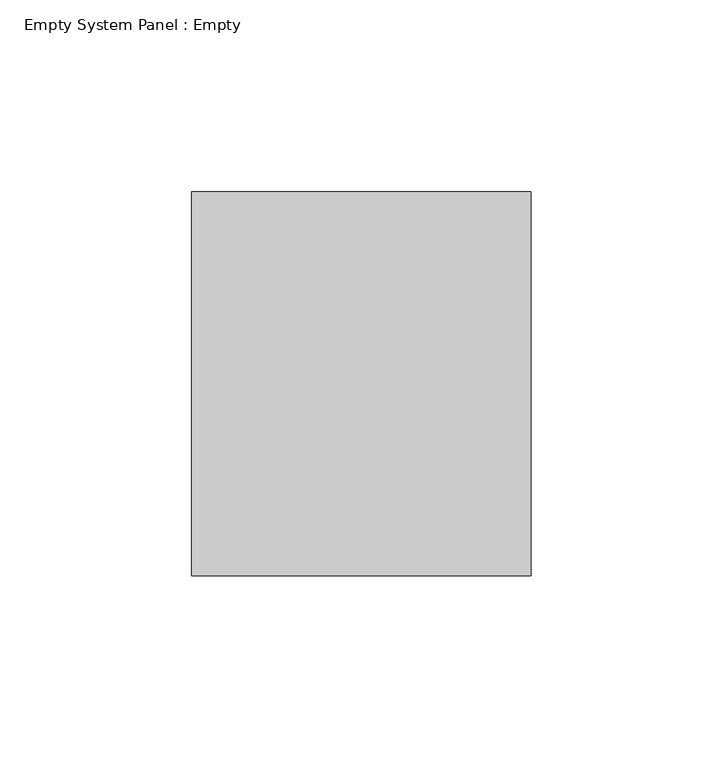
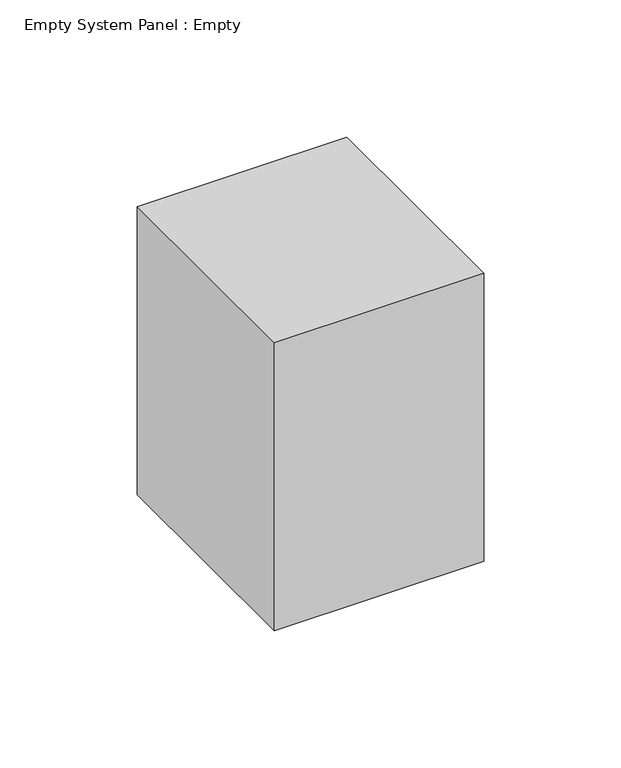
"""IFC4 building model written with IfcOpenShell, lengths in millimetres: plate geometry, Empty System Panel : Empty."""

from ifc_helpers import new_model, si_unit, origin, origin_with_axes, place, context, project, spatial, polyline, outline, extrude, source, transform, mapped, element, save


def empty_system_panel_empty_f21c77d8(model_context):
    return source(origin(), model_context, "Body", "SweptSolid", [
        extrude(outline(polyline([(44.1878048, 50.0), (-44.1878048, 50.0), (-44.1878048, 150.0), (44.1878048, 150.0), (44.1878048, 50.0)])), origin_with_axes(), (0.0, 0.0, 1.0), 128.37561),
    ])


if __name__ == "__main__":
    model = new_model("IFC4")
    model_context = context("Model", 3, world=origin())
    ifc_project = project(units=[si_unit("LENGTHUNIT", "METRE", prefix="MILLI")], contexts=[model_context])
    site = spatial("IfcSite", under=ifc_project)
    building = spatial("IfcBuilding", under=site)
    placement = place(None, origin())
    empty_system_panel_empty_shape = empty_system_panel_empty_f21c77d8(model_context)
    element("IfcPlate", 1, ObjectType="Empty System Panel : Empty", at=placement, inside=building, context=model_context, shape_type="MappedRepresentation", body=[
        mapped(empty_system_panel_empty_shape, transform((0.0, 0.0, 0.0), x_axis=(1.0, 0.0, 0.0), y_axis=(0.0, 1.0, 0.0), z_axis=(0.0, 0.0, 1.0))),
    ])
    save(model, "model.ifc")
